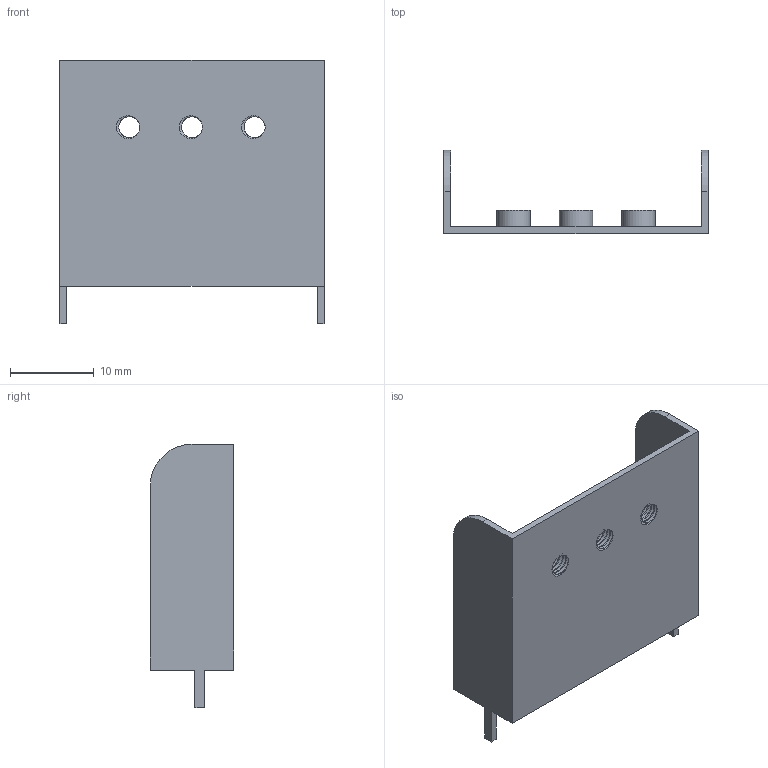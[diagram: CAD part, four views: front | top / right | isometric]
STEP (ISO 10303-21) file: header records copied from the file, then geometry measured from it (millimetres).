
FILE_DESCRIPTION(/* description */ ('','CAx-IF Rec.Pracs.---Representation and Presentation of Product Manufacturing Information (PMI)---4.0---2014-10-13'),/* implementation_level */ '2;1');
FILE_NAME(/* name */ 'TypeA-1-0.8.step',/* time_stamp */ '2025-01-27T02:25:52+09:00',/* author */ (''),/* organization */ (''),/* preprocessor_version */ 'ST-DEVELOPER v20',/* originating_system */ 'Autodesk Translation Framework v13.20.0.188',/* authorisation */ '');
FILE_SCHEMA (('AP242_MANAGED_MODEL_BASED_3D_ENGINEERING_MIM_LF { 1 0 10303 442 1 1 4 }'));
Length unit declared in the file: millimetre
Products named in the file (1): (未保存)
Bounding box: 31.6 x 10 x 31.5 mm (x, y, z)
Volume: 1104.8 mm3; surface area: 2993.3 mm2
Topology: 1 solids, 1 shells, 77 faces, 216 edges, 144 vertices
Faces by surface type: cylinder 44, plane 21, bspline 12
Full cylindrical faces by diameter (mm): 2.529 x12, 3.086 x15, 4 x3
Entity records: 5911 total; most frequent: CARTESIAN_POINT 4104, ORIENTED_EDGE 432, DIRECTION 262, EDGE_CURVE 216, VERTEX_POINT 144, B_SPLINE_CURVE_WITH_KNOTS 108, AXIS2_PLACEMENT_3D 88, EDGE_LOOP 86
